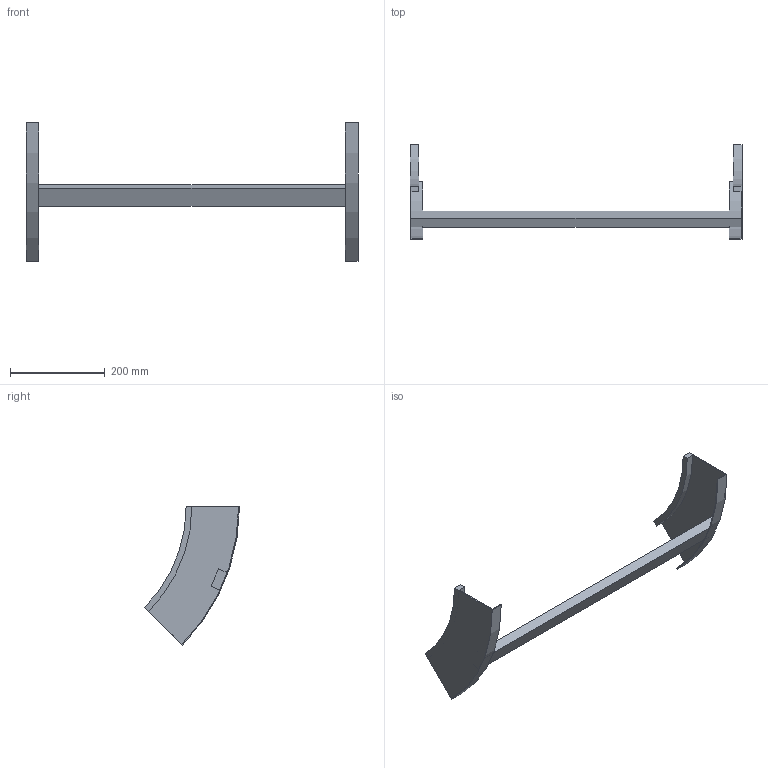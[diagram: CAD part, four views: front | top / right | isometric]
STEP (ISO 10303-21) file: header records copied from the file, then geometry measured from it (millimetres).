
FILE_DESCRIPTION (( 'STEP AP214' ), '1' );
FILE_NAME ('B2X31B3J700XX.step', '2025-03-20T10:08:00', ( '' ), ( '' ), 'SwSTEP 2.0', 'SolidWorks 2023', '' );
FILE_SCHEMA (( 'AUTOMOTIVE_DESIGN' ));
Length unit declared in the file: millimetre
Products named in the file (3): B2X31B3J700XX; TRAVERSINO_700; B2_LONGH.SALITA_45°_H112.5_R300
Assembly tree (3 placements, depth 2):
  B2X31B3J700XX
    B2_LONGH.SALITA_45°_H112.5_R300  x2
    TRAVERSINO_700
Bounding box: 700 x 200.37 x 291.68 mm (x, y, z)
Volume: 814275.7 mm3; surface area: 263551.9 mm2
Topology: 3 solids, 3 shells, 26 faces, 60 edges, 40 vertices
Faces by surface type: plane 18, cylinder 8
Entity records: 544 total; most frequent: DIRECTION 88, CARTESIAN_POINT 82, ORIENTED_EDGE 72, EDGE_CURVE 36, AXIS2_PLACEMENT_3D 30, VECTOR 28, LINE 28, VERTEX_POINT 24
